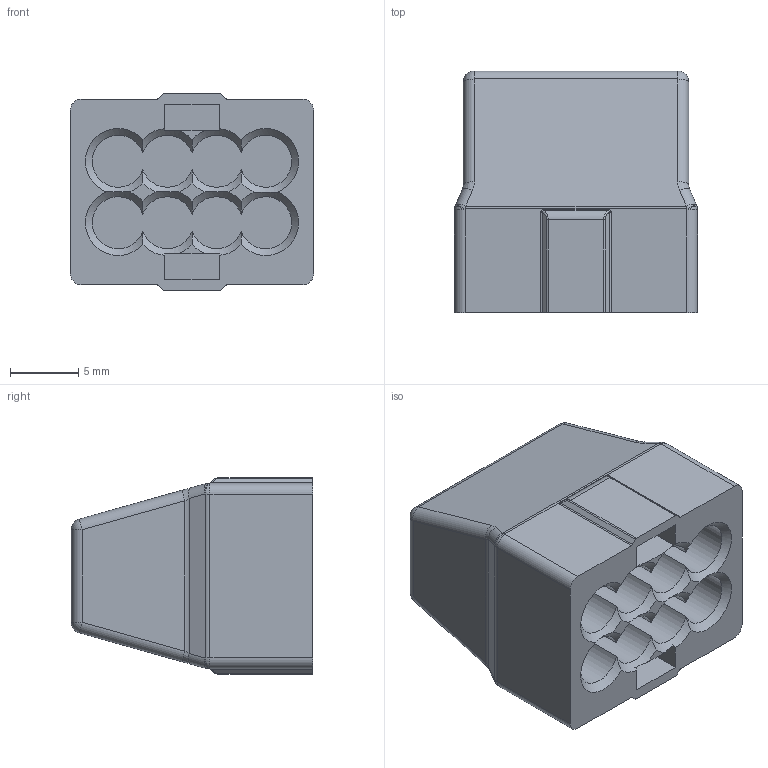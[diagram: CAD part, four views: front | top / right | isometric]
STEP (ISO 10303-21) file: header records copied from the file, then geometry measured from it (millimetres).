
FILE_DESCRIPTION(/* description */ ('Unknown'),/* implementation_level */ '2;1');
FILE_NAME(/* name */ 'ST 3508',/* time_stamp */ '2021-10-08T08:55:10+02:00',/* author */ ('Unknown'),/* organization */ ('Unknown'),/* preprocessor_version */ 'ST-DEVELOPER v16.7',/* originating_system */ 'Solid Edge',/* authorisation */ 'Unknown');
FILE_SCHEMA (('AUTOMOTIVE_DESIGN {1 0 10303 214 3 1 1}'));
Length unit declared in the file: millimetre
Products named in the file (1): ST 3508
Bounding box: 17.8 x 17.7 x 14.4 mm (x, y, z)
Volume: 2670.4 mm3; surface area: 2321.8 mm2
Topology: 1 solids, 1 shells, 121 faces, 298 edges, 168 vertices
Faces by surface type: cylinder 50, plane 35, cone 12, sphere 12, bspline 12
Entity records: 3598 total; most frequent: CARTESIAN_POINT 808, DIRECTION 606, ORIENTED_EDGE 572, EDGE_CURVE 286, AXIS2_PLACEMENT_3D 242, VERTEX_POINT 168, LINE 122, VECTOR 122
